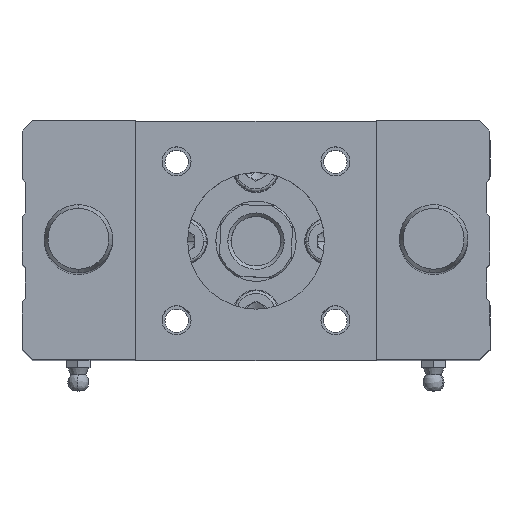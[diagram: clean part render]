
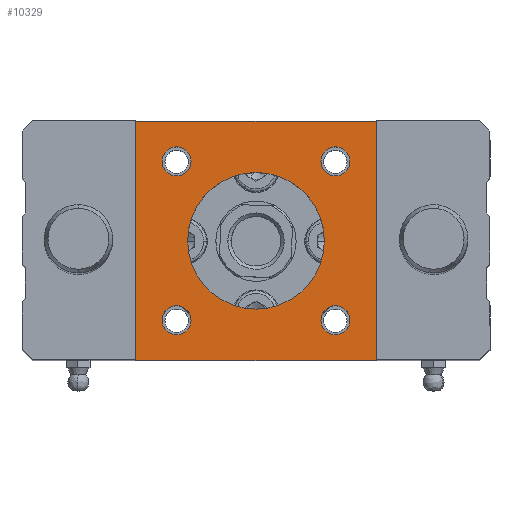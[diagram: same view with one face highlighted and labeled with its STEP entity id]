
A CAD part, top view. The second image highlights one B-rep face of the part: STEP entity #10329.
In plain terms, the highlighted planar face has unit normal (0, 0, 1).
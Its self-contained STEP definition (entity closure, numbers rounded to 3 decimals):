
#223 = DIRECTION ( 'NONE',  ( 1., 0., 0. ) ) ;
#251 = CARTESIAN_POINT ( 'NONE',  ( -27.5, 23.25, 71. ) ) ;
#479 = EDGE_CURVE ( 'NONE', #5005, #14943, #17816, .T. ) ;
#1162 = DIRECTION ( 'NONE',  ( 0., 0., 1. ) ) ;
#1354 = DIRECTION ( 'NONE',  ( -1., 0., 0. ) ) ;
#2180 = EDGE_CURVE ( 'NONE', #3334, #19558, #20000, .T. ) ;
#2347 = EDGE_CURVE ( 'NONE', #20880, #23215, #6779, .T. ) ;
#2514 = DIRECTION ( 'NONE',  ( 0., 0., 1. ) ) ;
#2700 = ORIENTED_EDGE ( 'NONE', *, *, #479, .F. ) ;
#2846 = DIRECTION ( 'NONE',  ( 0., 0., 1. ) ) ;
#2912 = VERTEX_POINT ( 'NONE', #27270 ) ;
#3091 = AXIS2_PLACEMENT_3D ( 'NONE', #15134, #2514, #10992 ) ;
#3334 = VERTEX_POINT ( 'NONE', #13984 ) ;
#3448 = ORIENTED_EDGE ( 'NONE', *, *, #15616, .F. ) ;
#3520 = CARTESIAN_POINT ( 'NONE',  ( 35.25, -35., 71. ) ) ;
#3935 = CIRCLE ( 'NONE', #26853, 4.25 ) ;
#3987 = CARTESIAN_POINT ( 'NONE',  ( 35.25, 35., 71. ) ) ;
#4277 = LINE ( 'NONE', #3987, #20443 ) ;
#4333 = CIRCLE ( 'NONE', #12751, 20. ) ;
#4349 = DIRECTION ( 'NONE',  ( -1., 0., 0. ) ) ;
#4566 = CARTESIAN_POINT ( 'NONE',  ( -35.25, 35., 71. ) ) ;
#4653 = CIRCLE ( 'NONE', #25431, 4.25 ) ;
#4785 = CARTESIAN_POINT ( 'NONE',  ( 35.25, -35., 71. ) ) ;
#4825 = EDGE_CURVE ( 'NONE', #24375, #18630, #23457, .T. ) ;
#4846 = DIRECTION ( 'NONE',  ( 0., 0., -1. ) ) ;
#4915 = CARTESIAN_POINT ( 'NONE',  ( 0., 0., 71. ) ) ;
#4973 = CARTESIAN_POINT ( 'NONE',  ( -35.25, 35., 71. ) ) ;
#5005 = VERTEX_POINT ( 'NONE', #6524 ) ;
#5102 = DIRECTION ( 'NONE',  ( 0., 0., 1. ) ) ;
#5339 = ORIENTED_EDGE ( 'NONE', *, *, #14223, .F. ) ;
#5396 = ORIENTED_EDGE ( 'NONE', *, *, #13202, .F. ) ;
#5501 = EDGE_LOOP ( 'NONE', ( #20072, #6468 ) ) ;
#5615 = AXIS2_PLACEMENT_3D ( 'NONE', #14665, #10415, #4349 ) ;
#5769 = DIRECTION ( 'NONE',  ( 0., 0., 1. ) ) ;
#6430 = VERTEX_POINT ( 'NONE', #18200 ) ;
#6468 = ORIENTED_EDGE ( 'NONE', *, *, #22767, .F. ) ;
#6481 = EDGE_LOOP ( 'NONE', ( #6794, #18616 ) ) ;
#6524 = CARTESIAN_POINT ( 'NONE',  ( -35.25, 35., 71. ) ) ;
#6710 = DIRECTION ( 'NONE',  ( -1., 0., 0. ) ) ;
#6779 = CIRCLE ( 'NONE', #8373, 4.25 ) ;
#6794 = ORIENTED_EDGE ( 'NONE', *, *, #26365, .F. ) ;
#6802 = VECTOR ( 'NONE', #13243, 1000. ) ;
#7034 = DIRECTION ( 'NONE',  ( -1., 0., 0. ) ) ;
#7089 = DIRECTION ( 'NONE',  ( 0., 0., 1. ) ) ;
#7399 = EDGE_LOOP ( 'NONE', ( #5339, #19457 ) ) ;
#7754 = AXIS2_PLACEMENT_3D ( 'NONE', #21644, #7089, #9017 ) ;
#8193 = ORIENTED_EDGE ( 'NONE', *, *, #15607, .T. ) ;
#8373 = AXIS2_PLACEMENT_3D ( 'NONE', #22620, #5769, #26678 ) ;
#8573 = EDGE_CURVE ( 'NONE', #16046, #18011, #27192, .T. ) ;
#8886 = CARTESIAN_POINT ( 'NONE',  ( -35.25, 35., 71. ) ) ;
#9017 = DIRECTION ( 'NONE',  ( -1., 0., 0. ) ) ;
#9041 = DIRECTION ( 'NONE',  ( -1., 0., 0. ) ) ;
#9324 = FACE_BOUND ( 'NONE', #6481, .T. ) ;
#9493 = AXIS2_PLACEMENT_3D ( 'NONE', #17260, #21678, #7034 ) ;
#9837 = VECTOR ( 'NONE', #11223, 1000. ) ;
#10132 = AXIS2_PLACEMENT_3D ( 'NONE', #10877, #2846, #9041 ) ;
#10151 = ORIENTED_EDGE ( 'NONE', *, *, #2347, .F. ) ;
#10179 = CARTESIAN_POINT ( 'NONE',  ( 19., 23.25, 71. ) ) ;
#10329 = ADVANCED_FACE ( 'NONE', ( #23492, #22819, #9324, #13285, #19590, #24151 ), #25663, .F. ) ;
#10415 = DIRECTION ( 'NONE',  ( 0., 0., 1. ) ) ;
#10494 = LINE ( 'NONE', #4973, #9837 ) ;
#10877 = CARTESIAN_POINT ( 'NONE',  ( 0., 0., 71. ) ) ;
#10992 = DIRECTION ( 'NONE',  ( -1., 0., 0. ) ) ;
#11155 = DIRECTION ( 'NONE',  ( -1., 0., 0. ) ) ;
#11223 = DIRECTION ( 'NONE',  ( 0., 1., 0. ) ) ;
#11335 = CARTESIAN_POINT ( 'NONE',  ( 23.25, 23.25, 71. ) ) ;
#12023 = EDGE_LOOP ( 'NONE', ( #8193, #2700, #24787, #20310 ) ) ;
#12751 = AXIS2_PLACEMENT_3D ( 'NONE', #4915, #5102, #15569 ) ;
#13202 = EDGE_CURVE ( 'NONE', #18563, #6430, #21537, .T. ) ;
#13243 = DIRECTION ( 'NONE',  ( 1., 0., 0. ) ) ;
#13285 = FACE_BOUND ( 'NONE', #20785, .T. ) ;
#13984 = CARTESIAN_POINT ( 'NONE',  ( -35.25, -35., 71. ) ) ;
#14223 = EDGE_CURVE ( 'NONE', #18011, #16046, #4333, .T. ) ;
#14665 = CARTESIAN_POINT ( 'NONE',  ( 23.25, -23.25, 71. ) ) ;
#14943 = VERTEX_POINT ( 'NONE', #21514 ) ;
#15134 = CARTESIAN_POINT ( 'NONE',  ( -23.25, -23.25, 71. ) ) ;
#15569 = DIRECTION ( 'NONE',  ( -1., 0., 0. ) ) ;
#15607 = EDGE_CURVE ( 'NONE', #19558, #14943, #4277, .T. ) ;
#15616 = EDGE_CURVE ( 'NONE', #6430, #18563, #20102, .T. ) ;
#16046 = VERTEX_POINT ( 'NONE', #17707 ) ;
#17024 = AXIS2_PLACEMENT_3D ( 'NONE', #8886, #4846, #6710 ) ;
#17260 = CARTESIAN_POINT ( 'NONE',  ( -23.25, -23.25, 71. ) ) ;
#17707 = CARTESIAN_POINT ( 'NONE',  ( 20., 0., 71. ) ) ;
#17816 = LINE ( 'NONE', #4566, #27009 ) ;
#17966 = CARTESIAN_POINT ( 'NONE',  ( -23.25, 23.25, 71. ) ) ;
#18011 = VERTEX_POINT ( 'NONE', #20945 ) ;
#18200 = CARTESIAN_POINT ( 'NONE',  ( 27.5, 23.25, 71. ) ) ;
#18563 = VERTEX_POINT ( 'NONE', #10179 ) ;
#18616 = ORIENTED_EDGE ( 'NONE', *, *, #4825, .F. ) ;
#18630 = VERTEX_POINT ( 'NONE', #21248 ) ;
#19457 = ORIENTED_EDGE ( 'NONE', *, *, #8573, .F. ) ;
#19558 = VERTEX_POINT ( 'NONE', #3520 ) ;
#19590 = FACE_BOUND ( 'NONE', #5501, .T. ) ;
#19745 = CIRCLE ( 'NONE', #3091, 4.25 ) ;
#19796 = EDGE_CURVE ( 'NONE', #23215, #20880, #26996, .T. ) ;
#20000 = LINE ( 'NONE', #4785, #6802 ) ;
#20066 = EDGE_CURVE ( 'NONE', #3334, #5005, #10494, .T. ) ;
#20072 = ORIENTED_EDGE ( 'NONE', *, *, #21771, .F. ) ;
#20102 = CIRCLE ( 'NONE', #25834, 4.25 ) ;
#20310 = ORIENTED_EDGE ( 'NONE', *, *, #2180, .T. ) ;
#20443 = VECTOR ( 'NONE', #25088, 1000. ) ;
#20785 = EDGE_LOOP ( 'NONE', ( #10151, #22190 ) ) ;
#20880 = VERTEX_POINT ( 'NONE', #23545 ) ;
#20945 = CARTESIAN_POINT ( 'NONE',  ( -20., 0., 71. ) ) ;
#21248 = CARTESIAN_POINT ( 'NONE',  ( -27.5, -23.25, 71. ) ) ;
#21514 = CARTESIAN_POINT ( 'NONE',  ( 35.25, 35., 71. ) ) ;
#21537 = CIRCLE ( 'NONE', #7754, 4.25 ) ;
#21644 = CARTESIAN_POINT ( 'NONE',  ( 23.25, 23.25, 71. ) ) ;
#21678 = DIRECTION ( 'NONE',  ( 0., 0., 1. ) ) ;
#21771 = EDGE_CURVE ( 'NONE', #25770, #2912, #4653, .T. ) ;
#22190 = ORIENTED_EDGE ( 'NONE', *, *, #19796, .F. ) ;
#22277 = DIRECTION ( 'NONE',  ( -1., 0., 0. ) ) ;
#22377 = CARTESIAN_POINT ( 'NONE',  ( -23.25, 23.25, 71. ) ) ;
#22620 = CARTESIAN_POINT ( 'NONE',  ( 23.25, -23.25, 71. ) ) ;
#22767 = EDGE_CURVE ( 'NONE', #2912, #25770, #3935, .T. ) ;
#22819 = FACE_BOUND ( 'NONE', #25720, .T. ) ;
#22876 = CARTESIAN_POINT ( 'NONE',  ( -19., -23.25, 71. ) ) ;
#23215 = VERTEX_POINT ( 'NONE', #25917 ) ;
#23457 = CIRCLE ( 'NONE', #9493, 4.25 ) ;
#23492 = FACE_BOUND ( 'NONE', #7399, .T. ) ;
#23545 = CARTESIAN_POINT ( 'NONE',  ( 19., -23.25, 71. ) ) ;
#24151 = FACE_OUTER_BOUND ( 'NONE', #12023, .T. ) ;
#24375 = VERTEX_POINT ( 'NONE', #22876 ) ;
#24595 = DIRECTION ( 'NONE',  ( 0., 0., 1. ) ) ;
#24787 = ORIENTED_EDGE ( 'NONE', *, *, #20066, .F. ) ;
#25088 = DIRECTION ( 'NONE',  ( 0., 1., 0. ) ) ;
#25431 = AXIS2_PLACEMENT_3D ( 'NONE', #22377, #24595, #1354 ) ;
#25663 = PLANE ( 'NONE',  #17024 ) ;
#25720 = EDGE_LOOP ( 'NONE', ( #5396, #3448 ) ) ;
#25770 = VERTEX_POINT ( 'NONE', #251 ) ;
#25834 = AXIS2_PLACEMENT_3D ( 'NONE', #11335, #26089, #11155 ) ;
#25917 = CARTESIAN_POINT ( 'NONE',  ( 27.5, -23.25, 71. ) ) ;
#26089 = DIRECTION ( 'NONE',  ( 0., 0., 1. ) ) ;
#26365 = EDGE_CURVE ( 'NONE', #18630, #24375, #19745, .T. ) ;
#26678 = DIRECTION ( 'NONE',  ( -1., 0., 0. ) ) ;
#26853 = AXIS2_PLACEMENT_3D ( 'NONE', #17966, #1162, #22277 ) ;
#26996 = CIRCLE ( 'NONE', #5615, 4.25 ) ;
#27009 = VECTOR ( 'NONE', #223, 1000. ) ;
#27192 = CIRCLE ( 'NONE', #10132, 20. ) ;
#27270 = CARTESIAN_POINT ( 'NONE',  ( -19., 23.25, 71. ) ) ;
